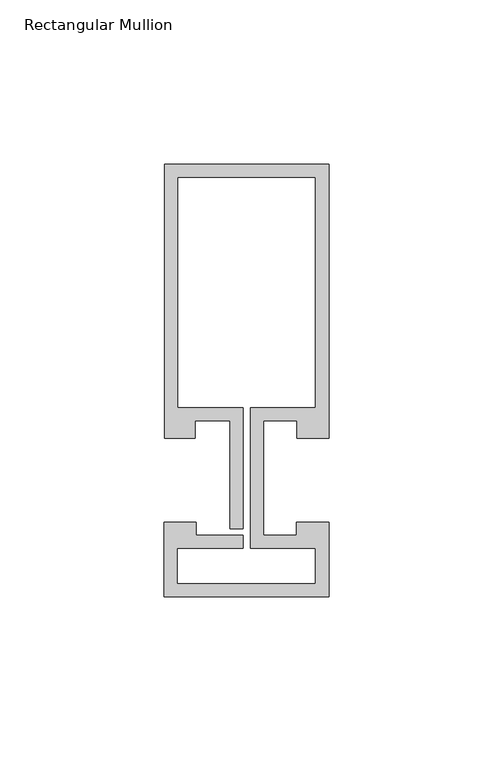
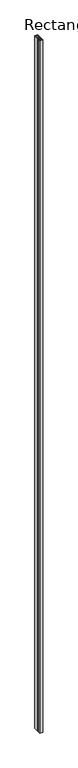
"""IFC4 building model written with IfcOpenShell, lengths in millimetres: member geometry, Rectangular Mullion : Reynaers_CW-50_Transom-Transom_83.5mm_Facecap-02C."""

from ifc_helpers import new_model, si_unit, frame, origin, place, context, project, spatial, polyline, outline, extrude, source, transform, mapped, element, save


def rectangular_mullion_a4653e5e(model_context):
    return source(origin(), model_context, "Body", "SweptSolid", [
        extrude(outline(polyline([(25.1995941, -12.7331291), (25.1995941, -35.5313894), (-24.994845, -35.5313894), (-24.994845, -12.7331291), (-15.2996495, -12.7331291), (-15.2996495, -16.7331291), (-0.9004059, -16.7331291), (-0.9004059, -20.7331291), (-20.994845, -20.7331291), (-20.994845, -31.5313894), (21.1995941, -31.5313894), (21.1995941, -20.7331291), (1.2995941, -20.7331291), (1.2995941, 22.1331291), (21.1995941, 22.1331291), (21.1995941, 92.2331291), (-20.8004059, 92.2331291), (-20.8004059, 22.1331291), (-0.9004059, 22.1331291), (-0.9004059, -14.7331291), (-4.9004059, -14.7331291), (-4.9004059, 18.1331291), (-15.499, 18.1331291), (-15.499, 12.7331291), (-24.8004059, 12.7331291), (-24.8004059, 96.2331291), (25.1995941, 96.2331291), (25.1995941, 12.7331291), (15.499, 12.7331291), (15.499, 18.1331291), (5.2995941, 18.1331291), (5.2995941, -16.7331291), (15.2996495, -16.7331291), (15.2996495, -12.7331291), (25.1995941, -12.7331291)])), frame((0.0, 0.0, -12000.0), z_axis=(0.0, 0.0, 1.0), x_axis=(1.0, 0.0, 0.0)), (0.0, 0.0, 1.0), 12000.0),
    ])


if __name__ == "__main__":
    model = new_model("IFC4")
    model_context = context("Model", 3, world=origin())
    ifc_project = project(units=[si_unit("LENGTHUNIT", "METRE", prefix="MILLI")], contexts=[model_context])
    site = spatial("IfcSite", under=ifc_project)
    building = spatial("IfcBuilding", under=site)
    placement = place(None, origin())
    rectangular_mullion_shape = rectangular_mullion_a4653e5e(model_context)
    element("IfcMember", 1, ObjectType="Rectangular Mullion : Reynaers_CW-50_Transom-Transom_83.5mm_Facecap-02C", at=placement, inside=building, context=model_context, shape_type="MappedRepresentation", body=[
        mapped(rectangular_mullion_shape, transform((0.0, 0.0, 0.0), x_axis=(1.0, 0.0, 0.0), y_axis=(0.0, 1.0, 0.0), z_axis=(0.0, 0.0, 1.0))),
    ])
    save(model, "model.ifc")
